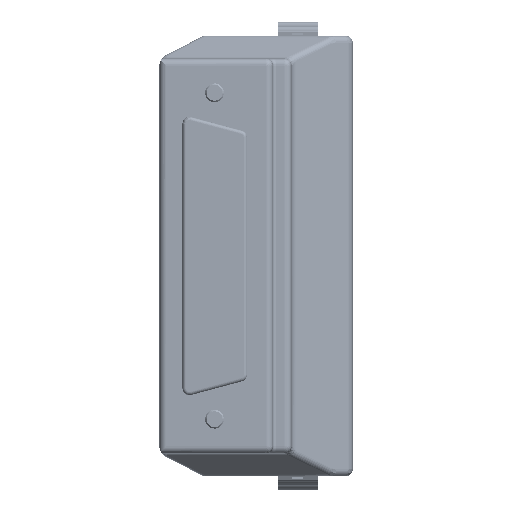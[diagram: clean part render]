
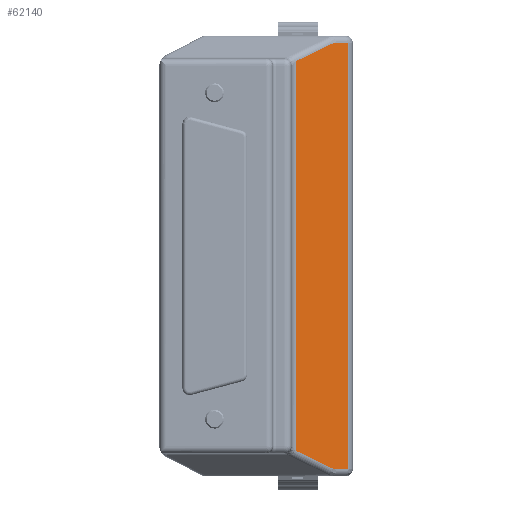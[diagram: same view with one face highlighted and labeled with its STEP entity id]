
A CAD part, front view. The second image highlights one B-rep face of the part: STEP entity #62140.
In plain terms, the highlighted planar face has unit normal (0.643, -0.766, 0).
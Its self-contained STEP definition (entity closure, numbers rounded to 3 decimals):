
#23200=DIRECTION('',(0.,0.,1.));
#23201=VECTOR('',#23200,61.5);
#23202=CARTESIAN_POINT('',(11.886,-1.936,-1.83));
#23203=LINE('',#23202,#23201);
#23223=DIRECTION('',(-0.766,-0.643,0.));
#23224=VECTOR('',#23223,2.086);
#23225=CARTESIAN_POINT('',(11.886,-1.936,59.67));
#23226=LINE('',#23225,#23224);
#23230=DIRECTION('',(0.766,0.643,0.));
#23231=VECTOR('',#23230,2.086);
#23232=CARTESIAN_POINT('',(10.287,-3.277,
-1.83));
#23233=LINE('',#23232,#23231);
#23237=CARTESIAN_POINT('',(9.692,-3.777,
-1.696));
#23238=CARTESIAN_POINT('',(9.717,-3.755,
-1.708));
#23239=CARTESIAN_POINT('',(9.769,-3.712,
-1.731));
#23240=CARTESIAN_POINT('',(9.846,-3.647,
-1.76));
#23241=CARTESIAN_POINT('',(9.928,-3.579,
-1.784));
#23242=CARTESIAN_POINT('',(10.01,-3.51,
-1.803));
#23243=CARTESIAN_POINT('',(10.098,-3.436,
-1.818));
#23244=CARTESIAN_POINT('',(10.192,-3.357,
-1.828));
#23245=CARTESIAN_POINT('',(10.255,-3.304,
-1.83));
#23246=CARTESIAN_POINT('',(10.287,-3.277,
-1.83));
#23251=DIRECTION('',(0.718,0.603,-0.348));
#23252=VECTOR('',#23251,7.278);
#23253=CARTESIAN_POINT('',(4.464,-8.163,
0.836));
#23254=LINE('',#23253,#23252);
#23258=DIRECTION('',(0.,0.,1.));
#23259=VECTOR('',#23258,56.169);
#23260=CARTESIAN_POINT('',(4.464,-8.163,
0.836));
#23261=LINE('',#23260,#23259);
#23265=DIRECTION('',(-0.718,-0.603,-0.348));
#23266=VECTOR('',#23265,7.278);
#23267=CARTESIAN_POINT('',(9.692,-3.777,
59.536));
#23268=LINE('',#23267,#23266);
#23272=CARTESIAN_POINT('',(10.287,-3.277,
59.67));
#23273=CARTESIAN_POINT('',(10.256,-3.303,
59.67));
#23274=CARTESIAN_POINT('',(10.196,-3.354,
59.668));
#23275=CARTESIAN_POINT('',(10.111,-3.425,
59.66));
#23276=CARTESIAN_POINT('',(10.025,-3.497,
59.646));
#23277=CARTESIAN_POINT('',(9.943,-3.566,
59.628));
#23278=CARTESIAN_POINT('',(9.859,-3.636,
59.604));
#23279=CARTESIAN_POINT('',(9.774,-3.708,
59.573));
#23280=CARTESIAN_POINT('',(9.719,-3.754,
59.549));
#23281=CARTESIAN_POINT('',(9.692,-3.777,
59.536));
#42387=CARTESIAN_POINT('',(11.886,-1.936,59.67));
#42388=VERTEX_POINT('',#42387);
#42391=CARTESIAN_POINT('',(10.287,-3.277,
59.67));
#42392=VERTEX_POINT('',#42391);
#42395=VERTEX_POINT('',#23281);
#42397=CARTESIAN_POINT('',(4.464,-8.163,
57.006));
#42398=VERTEX_POINT('',#42397);
#42473=CARTESIAN_POINT('',(11.886,-1.936,-1.83));
#42474=VERTEX_POINT('',#42473);
#42477=CARTESIAN_POINT('',(10.287,-3.277,
-1.83));
#42478=VERTEX_POINT('',#42477);
#42481=VERTEX_POINT('',#23237);
#42483=CARTESIAN_POINT('',(4.464,-8.163,
0.836));
#42484=VERTEX_POINT('',#42483);
#62119=CARTESIAN_POINT('',(4.464,-8.163,-2.83));
#62120=DIRECTION('',(0.643,-0.766,0.));
#62121=DIRECTION('',(0.766,0.643,0.));
#62122=AXIS2_PLACEMENT_3D('',#62119,#62120,#62121);
#62123=PLANE('',#62122);
#62124=ORIENTED_EDGE('',*,*,#62110,.F.);
#62125=ORIENTED_EDGE('',*,*,#62075,.F.);
#62127=ORIENTED_EDGE('',*,*,#62126,.F.);
#62129=ORIENTED_EDGE('',*,*,#62128,.F.);
#62131=ORIENTED_EDGE('',*,*,#62130,.F.);
#62133=ORIENTED_EDGE('',*,*,#62132,.T.);
#62135=ORIENTED_EDGE('',*,*,#62134,.F.);
#62137=ORIENTED_EDGE('',*,*,#62136,.F.);
#62138=EDGE_LOOP('',(#62124,#62125,#62127,#62129,#62131,#62133,#62135,#62137));
#62139=FACE_OUTER_BOUND('',#62138,.F.);
#62140=ADVANCED_FACE('',(#62139),#62123,.T.);
#23247=B_SPLINE_CURVE_WITH_KNOTS('',3,(#23237,#23238,#23239,#23240,#23241,
#23242,#23243,#23244,#23245,#23246),.UNSPECIFIED.,.F.,.F.,(4,1,1,1,1,1,1,4),(
0.,0.143,0.286,0.429,0.571,
0.714,0.857,1.),.UNSPECIFIED.);
#23282=B_SPLINE_CURVE_WITH_KNOTS('',3,(#23272,#23273,#23274,#23275,#23276,
#23277,#23278,#23279,#23280,#23281),.UNSPECIFIED.,.F.,.F.,(4,1,1,1,1,1,1,4),(
0.,0.143,0.286,0.429,0.571,
0.714,0.857,1.),.UNSPECIFIED.);
#62075=EDGE_CURVE('',#42474,#42388,#23203,.T.);
#62110=EDGE_CURVE('',#42388,#42392,#23226,.T.);
#62126=EDGE_CURVE('',#42478,#42474,#23233,.T.);
#62128=EDGE_CURVE('',#42481,#42478,#23247,.T.);
#62130=EDGE_CURVE('',#42484,#42481,#23254,.T.);
#62132=EDGE_CURVE('',#42484,#42398,#23261,.T.);
#62134=EDGE_CURVE('',#42395,#42398,#23268,.T.);
#62136=EDGE_CURVE('',#42392,#42395,#23282,.T.);
